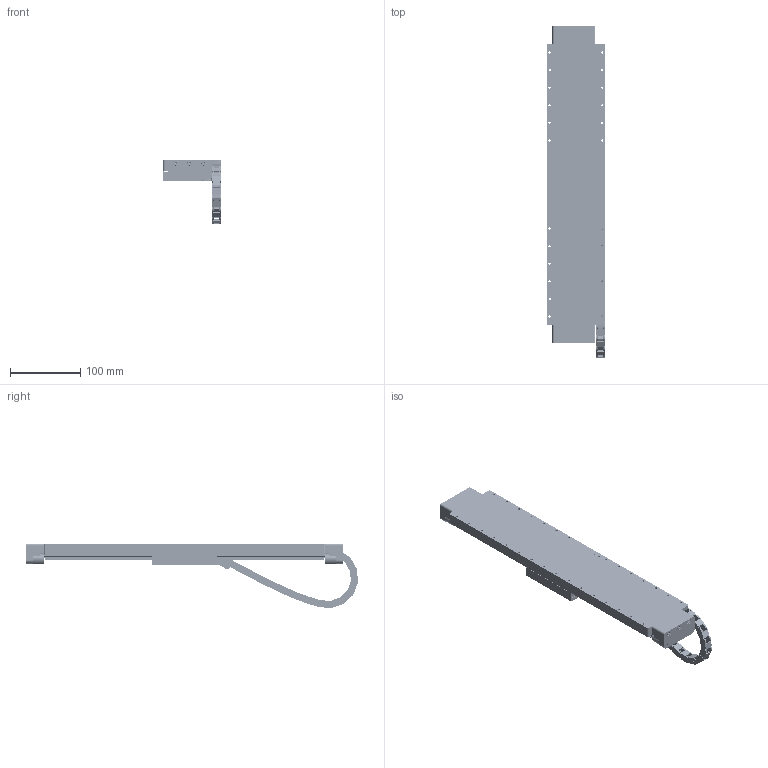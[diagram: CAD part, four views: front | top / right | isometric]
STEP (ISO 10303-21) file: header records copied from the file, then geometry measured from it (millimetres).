
FILE_DESCRIPTION (( 'STEP AP214' ), '1' );
FILE_NAME ('MLL-82400.STEP', '2023-11-02T07:56:24', ( 'Name' ), ( 'SmarAct GmbH' ), 'SwSTEP 2.0', 'SolidWorks 2021', '' );
FILE_SCHEMA (( 'AUTOMOTIVE_DESIGN' ));
Length unit declared in the file: millimetre
Products named in the file (13): 10011847_EX; ISO 7046-1 - M3 x 4 - 4N-A2-PH_ISO 7046-1 - M3 x 4 - 4N-A2-PH; 10014184_00_Parent; 10014165_EX; ISO 4762 M2 x 4 - 2.8N-A2_ISO 4762 M2 x 4 - 2.8N-A2; MLL-82400; 10014166_00_Parent; ISO 4762 M4 x 25 - 22.9N-A2_ISO 4762 M4 x 25 - 22.9N-A2; ISO 4762 M3 x 5 - 3.5N-A2_ISO 4762 M3 x 5 - 3.5N-A2; 10006933_00_Parent; 10011848_00_Parent; 10006925_00_Parent; 10011851_00_Parent
Assembly tree (84 placements, depth 2):
  MLL-82400
    10014165_EX
    10014166_00_Parent  x2
    10006933_00_Parent  x4
    10011848_00_Parent  x2
    10006925_00_Parent  x4
    10011847_EX
    10011851_00_Parent
    10014184_00_Parent
    ISO 4762 M3 x 5 - 3.5N-A2_ISO 4762 M3 x 5 - 3.5N-A2  x56
    ISO 4762 M4 x 25 - 22.9N-A2_ISO 4762 M4 x 25 - 22.9N-A2  x6
    ISO 4762 M2 x 4 - 2.8N-A2_ISO 4762 M2 x 4 - 2.8N-A2  x2
    ISO 7046-1 - M3 x 4 - 4N-A2-PH_ISO 7046-1 - M3 x 4 - 4N-A2-PH  x4
Bounding box: 82.15 x 471.36 x 91.07 mm (x, y, z)
Volume: 721861.9 mm3; surface area: 242445.4 mm2
Topology: 111 solids, 111 shells, 4449 faces, 10786 edges, 6647 vertices
Faces by surface type: plane 2112, cylinder 1519, cone 554, torus 264
Entity records: 80379 total; most frequent: DIRECTION 12113, CARTESIAN_POINT 11441, ORIENTED_EDGE 10972, EDGE_CURVE 5486, AXIS2_PLACEMENT_3D 4424, VERTEX_POINT 3602, LINE 3265, VECTOR 3265
